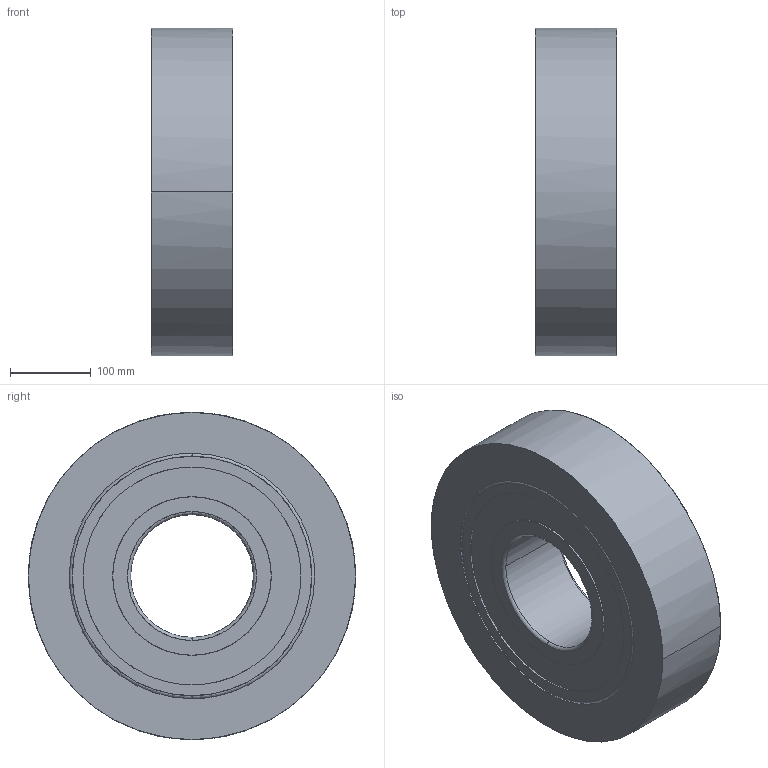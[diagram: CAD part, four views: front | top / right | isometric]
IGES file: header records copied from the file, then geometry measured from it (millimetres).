
Global section: native system: Kubotek KeyCreator; preprocessor: KCM Version 1.1.1442.0; author: KeyCreator User; organization: Self; date: 20170714.085537; units: inch
Bounding box: 101.6 x 406.4 x 406.4 mm (x, y, z)
Surface area: 418775.4 mm2 (no closed solid volume)
Topology: 0 solids, 0 shells, 32 faces, 208 edges, 208 vertices
Faces by surface type: bspline 32
